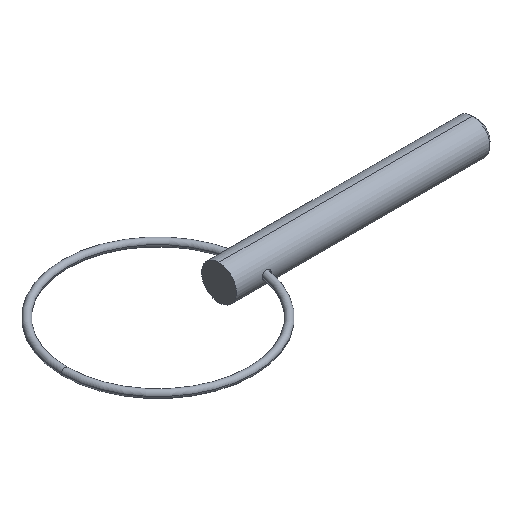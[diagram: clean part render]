
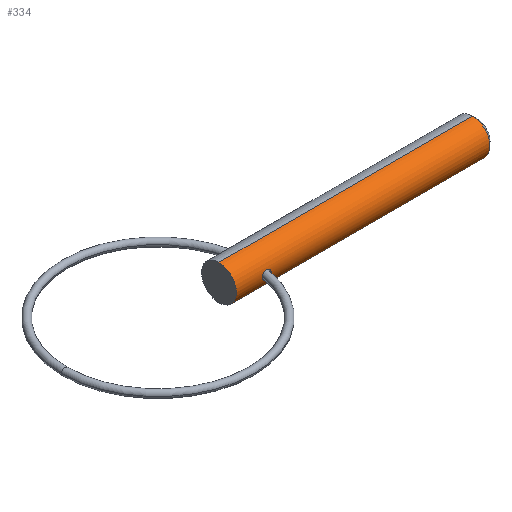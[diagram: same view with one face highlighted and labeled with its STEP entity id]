
A CAD part, isometric view. The second image highlights one B-rep face of the part: STEP entity #334.
In plain terms, the highlighted cylindrical face has radius 2.38 mm (diameter 4.76 mm), a partial arc.
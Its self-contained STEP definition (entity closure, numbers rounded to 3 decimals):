
#3 = EDGE_CURVE ( 'NONE', #242, #617, #517, .T. ) ;
#10 = B_SPLINE_CURVE_WITH_KNOTS ( 'NONE', 3,
 ( #444, #264, #755, #90, #335, #270, #147, #199, #29, #143 ),
 .UNSPECIFIED., .F., .F.,
 ( 4, 2, 2, 2, 4 ),
 ( 0.002, 0.003, 0.003, 0.004, 0.004 ),
 .UNSPECIFIED. ) ;
#11 = CARTESIAN_POINT ( 'NONE',  ( 0., 0., 0. ) ) ;
#12 = B_SPLINE_CURVE_WITH_KNOTS ( 'NONE', 3,
 ( #751, #205, #148, #756, #456, #697, #637, #97, #336, #574 ),
 .UNSPECIFIED., .F., .F.,
 ( 4, 2, 2, 2, 4 ),
 ( 0., 0.001, 0.001, 0.002, 0.002 ),
 .UNSPECIFIED. ) ;
#25 = DIRECTION ( 'NONE',  ( 1., 0., 0. ) ) ;
#29 = CARTESIAN_POINT ( 'NONE',  ( 3.538, -2.38, -0.159 ) ) ;
#42 = ORIENTED_EDGE ( 'NONE', *, *, #533, .T. ) ;
#47 = CARTESIAN_POINT ( 'NONE',  ( 34.635, 0., 2.38 ) ) ;
#51 = EDGE_CURVE ( 'NONE', #652, #99, #12, .T. ) ;
#74 = FACE_BOUND ( 'NONE', #331, .T. ) ;
#84 = DIRECTION ( 'NONE',  ( 1., 0., 0. ) ) ;
#90 = CARTESIAN_POINT ( 'NONE',  ( 4.464, -2.322, -0.536 ) ) ;
#97 = CARTESIAN_POINT ( 'NONE',  ( 4.687, -2.362, 0.314 ) ) ;
#99 = VERTEX_POINT ( 'NONE', #178 ) ;
#143 = CARTESIAN_POINT ( 'NONE',  ( 3.538, -2.38, 0. ) ) ;
#146 = ORIENTED_EDGE ( 'NONE', *, *, #553, .T. ) ;
#147 = CARTESIAN_POINT ( 'NONE',  ( 3.836, -2.323, -0.528 ) ) ;
#148 = CARTESIAN_POINT ( 'NONE',  ( 3.61, -2.362, 0.313 ) ) ;
#170 = DIRECTION ( 'NONE',  ( 1., 0., 0. ) ) ;
#178 = CARTESIAN_POINT ( 'NONE',  ( 4.75, -2.38, 0. ) ) ;
#190 = FACE_OUTER_BOUND ( 'NONE', #271, .T. ) ;
#199 = CARTESIAN_POINT ( 'NONE',  ( 3.61, -2.362, -0.312 ) ) ;
#205 = CARTESIAN_POINT ( 'NONE',  ( 3.538, -2.38, 0.159 ) ) ;
#208 = LINE ( 'NONE', #452, #576 ) ;
#215 = DIRECTION ( 'NONE',  ( 1., 0., 0. ) ) ;
#242 = VERTEX_POINT ( 'NONE', #646 ) ;
#264 = CARTESIAN_POINT ( 'NONE',  ( 4.75, -2.38, -0.157 ) ) ;
#270 = CARTESIAN_POINT ( 'NONE',  ( 3.992, -2.305, -0.592 ) ) ;
#271 = EDGE_LOOP ( 'NONE', ( #703, #146, #522, #578 ) ) ;
#286 = VERTEX_POINT ( 'NONE', #559 ) ;
#329 = CIRCLE ( 'NONE', #532, 2.38 ) ;
#330 = CARTESIAN_POINT ( 'NONE',  ( 0., 0., 0. ) ) ;
#331 = EDGE_LOOP ( 'NONE', ( #415, #42 ) ) ;
#334 = ADVANCED_FACE ( 'NONE', ( #190, #74 ), #740, .T. ) ;
#335 = CARTESIAN_POINT ( 'NONE',  ( 4.307, -2.304, -0.597 ) ) ;
#336 = CARTESIAN_POINT ( 'NONE',  ( 4.75, -2.38, 0.157 ) ) ;
#415 = ORIENTED_EDGE ( 'NONE', *, *, #51, .T. ) ;
#416 = CARTESIAN_POINT ( 'NONE',  ( 3.538, -2.38, 0. ) ) ;
#444 = CARTESIAN_POINT ( 'NONE',  ( 4.75, -2.38, 0. ) ) ;
#452 = CARTESIAN_POINT ( 'NONE',  ( 0., 0., -2.38 ) ) ;
#456 = CARTESIAN_POINT ( 'NONE',  ( 3.991, -2.305, 0.592 ) ) ;
#479 = CARTESIAN_POINT ( 'NONE',  ( 34.635, 0., 0. ) ) ;
#480 = AXIS2_PLACEMENT_3D ( 'NONE', #11, #734, #494 ) ;
#485 = EDGE_CURVE ( 'NONE', #763, #286, #208, .T. ) ;
#490 = VECTOR ( 'NONE', #215, 1000. ) ;
#494 = DIRECTION ( 'NONE',  ( 0., 0., -1. ) ) ;
#517 = LINE ( 'NONE', #524, #490 ) ;
#522 = ORIENTED_EDGE ( 'NONE', *, *, #485, .T. ) ;
#524 = CARTESIAN_POINT ( 'NONE',  ( 0., 0., 2.38 ) ) ;
#532 = AXIS2_PLACEMENT_3D ( 'NONE', #330, #25, #631 ) ;
#533 = EDGE_CURVE ( 'NONE', #99, #652, #10, .T. ) ;
#553 = EDGE_CURVE ( 'NONE', #242, #763, #329, .T. ) ;
#559 = CARTESIAN_POINT ( 'NONE',  ( 34.635, 0., -2.38 ) ) ;
#574 = CARTESIAN_POINT ( 'NONE',  ( 4.75, -2.38, 0. ) ) ;
#576 = VECTOR ( 'NONE', #84, 1000. ) ;
#578 = ORIENTED_EDGE ( 'NONE', *, *, #623, .F. ) ;
#593 = AXIS2_PLACEMENT_3D ( 'NONE', #479, #170, #781 ) ;
#617 = VERTEX_POINT ( 'NONE', #47 ) ;
#623 = EDGE_CURVE ( 'NONE', #617, #286, #629, .T. ) ;
#629 = CIRCLE ( 'NONE', #593, 2.38 ) ;
#631 = DIRECTION ( 'NONE',  ( 0., 0., -1. ) ) ;
#637 = CARTESIAN_POINT ( 'NONE',  ( 4.465, -2.322, 0.535 ) ) ;
#646 = CARTESIAN_POINT ( 'NONE',  ( 0., 0., 2.38 ) ) ;
#652 = VERTEX_POINT ( 'NONE', #416 ) ;
#697 = CARTESIAN_POINT ( 'NONE',  ( 4.307, -2.304, 0.597 ) ) ;
#703 = ORIENTED_EDGE ( 'NONE', *, *, #3, .F. ) ;
#734 = DIRECTION ( 'NONE',  ( 1., 0., 0. ) ) ;
#740 = CYLINDRICAL_SURFACE ( 'NONE', #480, 2.38 ) ;
#751 = CARTESIAN_POINT ( 'NONE',  ( 3.538, -2.38, 0. ) ) ;
#755 = CARTESIAN_POINT ( 'NONE',  ( 4.687, -2.362, -0.314 ) ) ;
#756 = CARTESIAN_POINT ( 'NONE',  ( 3.836, -2.323, 0.528 ) ) ;
#763 = VERTEX_POINT ( 'NONE', #768 ) ;
#768 = CARTESIAN_POINT ( 'NONE',  ( 0., 0., -2.38 ) ) ;
#781 = DIRECTION ( 'NONE',  ( 0., 0., -1. ) ) ;
